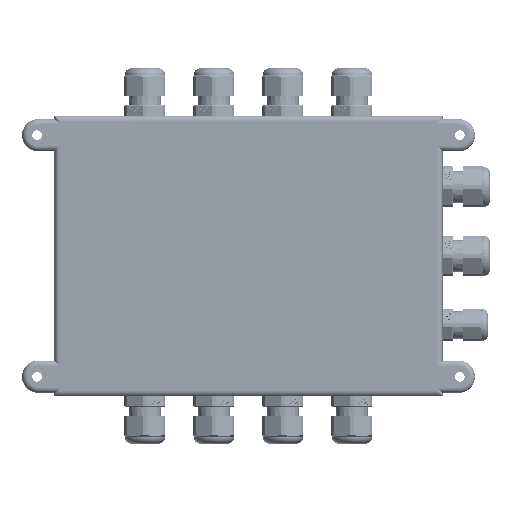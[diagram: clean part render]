
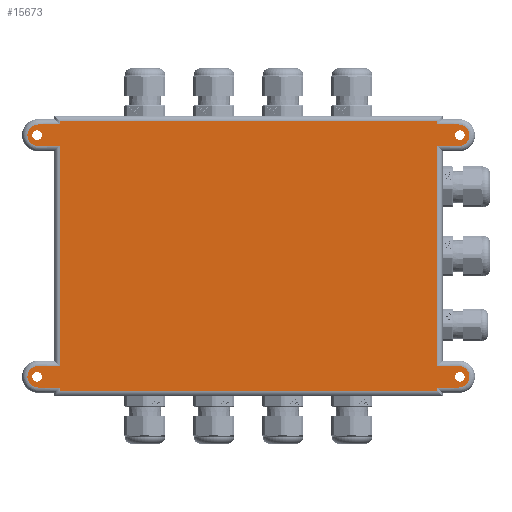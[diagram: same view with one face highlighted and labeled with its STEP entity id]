
A CAD part, front view. The second image highlights one B-rep face of the part: STEP entity #15673.
In plain terms, the highlighted planar face has unit normal (0, -1, 0).
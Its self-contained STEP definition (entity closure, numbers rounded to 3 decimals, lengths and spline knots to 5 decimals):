
#15673=ADVANCED_FACE('109:176',(#28769,#28770,#28771,#28772,#28773),#28774,.F.);
#28769=FACE_OUTER_BOUND('',#48093,.T.);
#28770=FACE_BOUND('',#48094,.T.);
#28771=FACE_BOUND('',#48095,.T.);
#28772=FACE_BOUND('',#48096,.T.);
#28773=FACE_BOUND('',#48097,.T.);
#28774=PLANE('',#48098);
#48093=EDGE_LOOP('',(#75040,#75041,#75042,#75043,#75044,#75045,#75046,#75047,#75048,#75049,#75050,#75051,#75052,#75053,#75054,#75055,#75056,#75057,#75058,#75059));
#48094=EDGE_LOOP('',(#75060,#75061));
#48095=EDGE_LOOP('',(#75062,#75063));
#48096=EDGE_LOOP('',(#75064,#75065));
#48097=EDGE_LOOP('',(#75066,#75067));
#48098=AXIS2_PLACEMENT_3D('',#75068,#75069,#75070);
#75040=ORIENTED_EDGE('',*,*,#97148,.F.);
#75041=ORIENTED_EDGE('',*,*,#97145,.F.);
#75042=ORIENTED_EDGE('',*,*,#97314,.T.);
#75043=ORIENTED_EDGE('',*,*,#97296,.F.);
#75044=ORIENTED_EDGE('',*,*,#97137,.F.);
#75045=ORIENTED_EDGE('',*,*,#97315,.T.);
#75046=ORIENTED_EDGE('',*,*,#97316,.T.);
#75047=ORIENTED_EDGE('',*,*,#97290,.F.);
#75048=ORIENTED_EDGE('',*,*,#97094,.F.);
#75049=ORIENTED_EDGE('',*,*,#97131,.F.);
#75050=ORIENTED_EDGE('',*,*,#97128,.F.);
#75051=ORIENTED_EDGE('',*,*,#97125,.F.);
#75052=ORIENTED_EDGE('',*,*,#97317,.T.);
#75053=ORIENTED_EDGE('',*,*,#97302,.F.);
#75054=ORIENTED_EDGE('',*,*,#97117,.F.);
#75055=ORIENTED_EDGE('',*,*,#97318,.T.);
#75056=ORIENTED_EDGE('',*,*,#97319,.T.);
#75057=ORIENTED_EDGE('',*,*,#97308,.F.);
#75058=ORIENTED_EDGE('',*,*,#97106,.F.);
#75059=ORIENTED_EDGE('',*,*,#97320,.T.);
#75060=ORIENTED_EDGE('',*,*,#97321,.T.);
#75061=ORIENTED_EDGE('',*,*,#97085,.T.);
#75062=ORIENTED_EDGE('',*,*,#97322,.T.);
#75063=ORIENTED_EDGE('',*,*,#97081,.T.);
#75064=ORIENTED_EDGE('',*,*,#97323,.T.);
#75065=ORIENTED_EDGE('',*,*,#97077,.T.);
#75066=ORIENTED_EDGE('',*,*,#97324,.T.);
#75067=ORIENTED_EDGE('',*,*,#97089,.T.);
#75068=CARTESIAN_POINT('',(0.0,0.0,0.0));
#75069=DIRECTION('',(0.0,1.0,0.0));
#75070=DIRECTION('',(0.0,0.0,1.0));
#97077=EDGE_CURVE('136:63',#117911,#117908,#117912,.T.);
#97081=EDGE_CURVE('136:690',#117919,#117916,#117920,.T.);
#97085=EDGE_CURVE('136:1299',#117927,#117924,#117928,.T.);
#97089=EDGE_CURVE('136:1914',#117935,#117932,#117936,.T.);
#97094=EDGE_CURVE('139:2306',#117943,#117945,#117946,.T.);
#97106=EDGE_CURVE('139:2264',#117966,#117968,#117969,.T.);
#97117=EDGE_CURVE('139:2282',#117986,#117988,#117989,.T.);
#97125=EDGE_CURVE('139:6897',#118001,#118003,#118004,.T.);
#97128=EDGE_CURVE('139:6990',#118003,#118008,#118009,.T.);
#97131=EDGE_CURVE('139:2288',#118008,#117943,#118012,.T.);
#97137=EDGE_CURVE('139:7291',#118020,#118022,#118023,.T.);
#97145=EDGE_CURVE('139:2216',#118035,#118037,#118038,.T.);
#97148=EDGE_CURVE('139:2210',#118037,#118041,#118042,.T.);
#97290=EDGE_CURVE('139:2300',#117945,#118268,#118269,.T.);
#97296=EDGE_CURVE('139:7285',#118022,#118277,#118278,.T.);
#97302=EDGE_CURVE('139:2276',#117988,#118286,#118287,.T.);
#97308=EDGE_CURVE('139:2258',#117968,#118295,#118296,.T.);
#97314=EDGE_CURVE('139:2312',#118035,#118277,#118303,.T.);
#97315=EDGE_CURVE('139:2222',#118020,#118304,#118305,.T.);
#97316=EDGE_CURVE('139:2294',#118304,#118268,#118306,.T.);
#97317=EDGE_CURVE('139:2270',#118001,#118286,#118307,.T.);
#97318=EDGE_CURVE('139:2240',#117986,#118308,#118309,.T.);
#97319=EDGE_CURVE('139:2252',#118308,#118295,#118310,.T.);
#97320=EDGE_CURVE('139:2246',#117966,#118041,#118311,.T.);
#97321=EDGE_CURVE('136:1299',#117924,#117927,#118312,.T.);
#97322=EDGE_CURVE('136:690',#117916,#117919,#118313,.T.);
#97323=EDGE_CURVE('136:63',#117908,#117911,#118314,.T.);
#97324=EDGE_CURVE('136:1914',#117932,#117935,#118315,.T.);
#117908=VERTEX_POINT('',#143160);
#117911=VERTEX_POINT('',#143164);
#117912=CIRCLE('',#143165,0.00225);
#117916=VERTEX_POINT('',#143170);
#117919=VERTEX_POINT('',#143174);
#117920=CIRCLE('',#143175,0.00225);
#117924=VERTEX_POINT('',#143180);
#117927=VERTEX_POINT('',#143184);
#117928=CIRCLE('',#143185,0.00225);
#117932=VERTEX_POINT('',#143190);
#117935=VERTEX_POINT('',#143194);
#117936=CIRCLE('',#143195,0.00225);
#117943=VERTEX_POINT('',#143204);
#117945=VERTEX_POINT('',#143206);
#117946=LINE('',#143207,#143208);
#117966=VERTEX_POINT('',#143233);
#117968=VERTEX_POINT('',#143235);
#117969=LINE('',#143236,#143237);
#117986=VERTEX_POINT('',#143259);
#117988=VERTEX_POINT('',#143261);
#117989=LINE('',#143262,#143263);
#118001=VERTEX_POINT('',#143278);
#118003=VERTEX_POINT('',#143280);
#118004=LINE('',#143281,#143282);
#118008=VERTEX_POINT('',#143287);
#118009=LINE('',#143288,#143289);
#118012=LINE('',#143293,#143294);
#118020=VERTEX_POINT('',#143305);
#118022=VERTEX_POINT('',#143307);
#118023=LINE('',#143308,#143309);
#118035=VERTEX_POINT('',#143324);
#118037=VERTEX_POINT('',#143326);
#118038=LINE('',#143327,#143328);
#118041=VERTEX_POINT('',#143332);
#118042=LINE('',#143333,#143334);
#118268=VERTEX_POINT('',#143726);
#118269=CIRCLE('',#143727,0.005);
#118277=VERTEX_POINT('',#143736);
#118278=CIRCLE('',#143737,0.005);
#118286=VERTEX_POINT('',#143746);
#118287=CIRCLE('',#143747,0.005);
#118295=VERTEX_POINT('',#143756);
#118296=CIRCLE('',#143757,0.005);
#118303=LINE('',#143765,#143766);
#118304=VERTEX_POINT('',#143767);
#118305=LINE('',#143768,#143769);
#118306=LINE('',#143770,#143771);
#118307=LINE('',#143772,#143773);
#118308=VERTEX_POINT('',#143774);
#118309=LINE('',#143775,#143776);
#118310=LINE('',#143777,#143778);
#118311=LINE('',#143779,#143780);
#118312=CIRCLE('',#143781,0.00225);
#118313=CIRCLE('',#143782,0.00225);
#118314=CIRCLE('',#143783,0.00225);
#118315=CIRCLE('',#143784,0.00225);
#143160=CARTESIAN_POINT('',(0.10025,0.0,0.056));
#143164=CARTESIAN_POINT('',(0.09575,0.0,0.056));
#143165=AXIS2_PLACEMENT_3D('',#159520,#159521,#159522);
#143170=CARTESIAN_POINT('',(0.10025,0.0,-0.056));
#143174=CARTESIAN_POINT('',(0.09575,0.0,-0.056));
#143175=AXIS2_PLACEMENT_3D('',#159528,#159529,#159530);
#143180=CARTESIAN_POINT('',(-0.10025,0.0,0.056));
#143184=CARTESIAN_POINT('',(-0.09575,0.0,0.056));
#143185=AXIS2_PLACEMENT_3D('',#159536,#159537,#159538);
#143190=CARTESIAN_POINT('',(-0.10025,0.0,-0.056));
#143194=CARTESIAN_POINT('',(-0.09575,0.0,-0.056));
#143195=AXIS2_PLACEMENT_3D('',#159544,#159545,#159546);
#143204=CARTESIAN_POINT('',(-0.0875,0.0,-0.061));
#143206=CARTESIAN_POINT('',(-0.0975,0.0,-0.061));
#143207=CARTESIAN_POINT('',(-0.04712,0.0,-0.061));
#143208=VECTOR('',#159555,1.0);
#143233=CARTESIAN_POINT('',(0.0875,0.0,0.061));
#143235=CARTESIAN_POINT('',(0.0975,0.0,0.061));
#143236=CARTESIAN_POINT('',(0.04713,0.0,0.061));
#143237=VECTOR('',#159579,1.0);
#143259=CARTESIAN_POINT('',(0.0875,0.0,-0.051));
#143261=CARTESIAN_POINT('',(0.0975,0.0,-0.051));
#143262=CARTESIAN_POINT('',(0.04713,0.0,-0.051));
#143263=VECTOR('',#159600,1.0);
#143278=CARTESIAN_POINT('',(0.0875,0.0,-0.061));
#143280=CARTESIAN_POINT('',(0.0875,0.0,-0.0625));
#143281=CARTESIAN_POINT('',(0.0875,0.0,0.0));
#143282=VECTOR('',#159616,1.0);
#143287=CARTESIAN_POINT('',(-0.0875,0.0,-0.0625));
#143288=CARTESIAN_POINT('',(0.0,0.0,-0.0625));
#143289=VECTOR('',#159621,1.0);
#143293=CARTESIAN_POINT('',(-0.0875,0.0,0.0));
#143294=VECTOR('',#159626,1.0);
#143305=CARTESIAN_POINT('',(-0.0875,0.0,0.051));
#143307=CARTESIAN_POINT('',(-0.0975,0.0,0.051));
#143308=CARTESIAN_POINT('',(-0.04713,0.0,0.051));
#143309=VECTOR('',#159636,1.0);
#143324=CARTESIAN_POINT('',(-0.0875,0.0,0.061));
#143326=CARTESIAN_POINT('',(-0.0875,0.0,0.0625));
#143327=CARTESIAN_POINT('',(-0.0875,0.0,0.0));
#143328=VECTOR('',#159652,1.0);
#143332=CARTESIAN_POINT('',(0.0875,0.0,0.0625));
#143333=CARTESIAN_POINT('',(0.0,0.0,0.0625));
#143334=VECTOR('',#159657,1.0);
#143726=CARTESIAN_POINT('',(-0.0975,0.0,-0.051));
#143727=AXIS2_PLACEMENT_3D('',#159941,#159942,#159943);
#143736=CARTESIAN_POINT('',(-0.0975,0.0,0.061));
#143737=AXIS2_PLACEMENT_3D('',#159957,#159958,#159959);
#143746=CARTESIAN_POINT('',(0.0975,0.0,-0.061));
#143747=AXIS2_PLACEMENT_3D('',#159973,#159974,#159975);
#143756=CARTESIAN_POINT('',(0.0975,0.0,0.051));
#143757=AXIS2_PLACEMENT_3D('',#159989,#159990,#159991);
#143765=CARTESIAN_POINT('',(-0.04713,0.0,0.061));
#143766=VECTOR('',#160005,1.0);
#143767=CARTESIAN_POINT('',(-0.0875,0.0,-0.051));
#143768=CARTESIAN_POINT('',(-0.0875,0.0,0.0));
#143769=VECTOR('',#160006,1.0);
#143770=CARTESIAN_POINT('',(-0.04712,0.0,-0.051));
#143771=VECTOR('',#160007,1.0);
#143772=CARTESIAN_POINT('',(0.04713,0.0,-0.061));
#143773=VECTOR('',#160008,1.0);
#143774=CARTESIAN_POINT('',(0.0875,0.0,0.051));
#143775=CARTESIAN_POINT('',(0.0875,0.0,0.0));
#143776=VECTOR('',#160009,1.0);
#143777=CARTESIAN_POINT('',(0.04713,0.0,0.051));
#143778=VECTOR('',#160010,1.0);
#143779=CARTESIAN_POINT('',(0.0875,0.0,0.0));
#143780=VECTOR('',#160011,1.0);
#143781=AXIS2_PLACEMENT_3D('',#160012,#160013,#160014);
#143782=AXIS2_PLACEMENT_3D('',#160015,#160016,#160017);
#143783=AXIS2_PLACEMENT_3D('',#160018,#160019,#160020);
#143784=AXIS2_PLACEMENT_3D('',#160021,#160022,#160023);
#159520=CARTESIAN_POINT('',(0.098,0.0,0.056));
#159521=DIRECTION('',(-0.0,1.0,0.0));
#159522=DIRECTION('',(1.0,0.0,0.0));
#159528=CARTESIAN_POINT('',(0.098,0.0,-0.056));
#159529=DIRECTION('',(-0.0,1.0,0.0));
#159530=DIRECTION('',(1.0,0.0,0.0));
#159536=CARTESIAN_POINT('',(-0.098,0.0,0.056));
#159537=DIRECTION('',(0.0,1.0,0.0));
#159538=DIRECTION('',(-1.0,0.0,0.));
#159544=CARTESIAN_POINT('',(-0.098,0.0,-0.056));
#159545=DIRECTION('',(0.0,1.0,0.0));
#159546=DIRECTION('',(-1.0,0.0,0.));
#159555=DIRECTION('',(-1.0,0.0,0.));
#159579=DIRECTION('',(1.0,0.0,0.0));
#159600=DIRECTION('',(1.0,0.0,0.0));
#159616=DIRECTION('',(0.0,0.0,-1.0));
#159621=DIRECTION('',(-1.0,0.0,0.0));
#159626=DIRECTION('',(0.0,0.0,1.0));
#159636=DIRECTION('',(-1.0,0.0,0.));
#159652=DIRECTION('',(0.0,0.0,1.0));
#159657=DIRECTION('',(1.0,0.0,0.0));
#159941=CARTESIAN_POINT('',(-0.0975,0.0,-0.056));
#159942=DIRECTION('',(0.0,1.0,0.0));
#159943=DIRECTION('',(-1.0,0.0,0.));
#159957=CARTESIAN_POINT('',(-0.0975,0.0,0.056));
#159958=DIRECTION('',(0.0,1.0,0.0));
#159959=DIRECTION('',(-1.0,0.0,0.));
#159973=CARTESIAN_POINT('',(0.0975,0.0,-0.056));
#159974=DIRECTION('',(-0.0,1.0,0.0));
#159975=DIRECTION('',(1.0,0.0,0.0));
#159989=CARTESIAN_POINT('',(0.0975,0.0,0.056));
#159990=DIRECTION('',(-0.0,1.0,0.0));
#159991=DIRECTION('',(1.0,0.0,0.0));
#160005=DIRECTION('',(-1.0,0.0,0.));
#160006=DIRECTION('',(0.0,0.0,-1.0));
#160007=DIRECTION('',(-1.0,0.0,0.));
#160008=DIRECTION('',(1.0,-0.0,0.0));
#160009=DIRECTION('',(0.0,0.0,1.0));
#160010=DIRECTION('',(1.0,-0.0,0.0));
#160011=DIRECTION('',(0.0,0.0,1.0));
#160012=CARTESIAN_POINT('',(-0.098,0.0,0.056));
#160013=DIRECTION('',(0.0,1.0,0.0));
#160014=DIRECTION('',(-1.0,0.0,0.));
#160015=CARTESIAN_POINT('',(0.098,0.0,-0.056));
#160016=DIRECTION('',(-0.0,1.0,0.0));
#160017=DIRECTION('',(1.0,0.0,0.0));
#160018=CARTESIAN_POINT('',(0.098,0.0,0.056));
#160019=DIRECTION('',(-0.0,1.0,0.0));
#160020=DIRECTION('',(1.0,0.0,0.0));
#160021=CARTESIAN_POINT('',(-0.098,0.0,-0.056));
#160022=DIRECTION('',(0.0,1.0,0.0));
#160023=DIRECTION('',(-1.0,0.0,0.));
